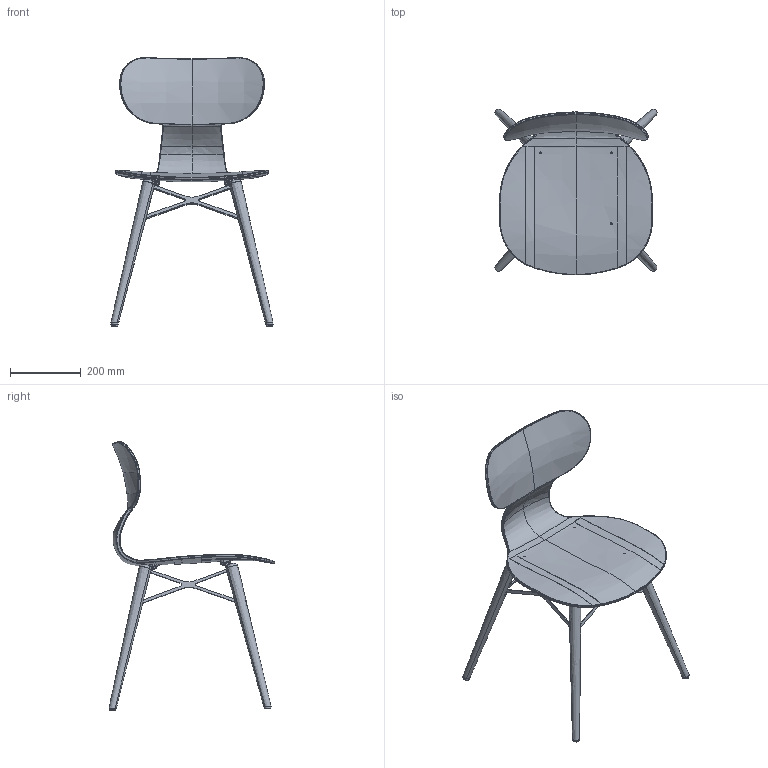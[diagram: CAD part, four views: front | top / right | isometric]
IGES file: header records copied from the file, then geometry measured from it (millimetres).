
Start section: SolidWorks IGES file using analytic representation for surfaces
Global section: file name: C:\Users\Ýbrahim Mert\Desktop\yugo\YUGO_WOX.IGS; native system: SolidWorks 2011; preprocessor: SolidWorks 2011; author: Ýbrahim Mert; date: 150226.163741; units: millimetre
Bounding box: 459.56 x 470.74 x 762.29 mm (x, y, z)
Surface area: 775865 mm2 (no closed solid volume)
Topology: 0 solids, 0 shells, 936 faces, 11433 edges, 11422 vertices
Faces by surface type: bspline 641, revolution 295
